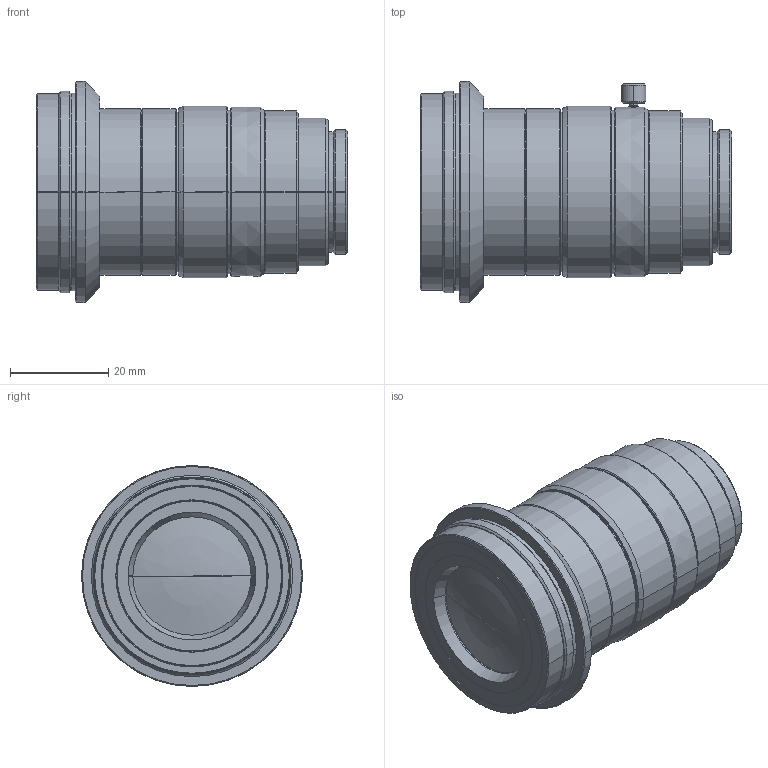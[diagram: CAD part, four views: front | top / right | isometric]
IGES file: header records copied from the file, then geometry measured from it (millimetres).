
Start section: SolidWorks IGES file using analytic representation for surfaces
Bounding box: 63.5 x 45 x 45 mm (x, y, z)
Surface area: 22303.4 mm2 (no closed solid volume)
Topology: 0 solids, 0 shells, 243 faces, 5160 edges, 5158 vertices
Faces by surface type: revolution 202, bspline 41
